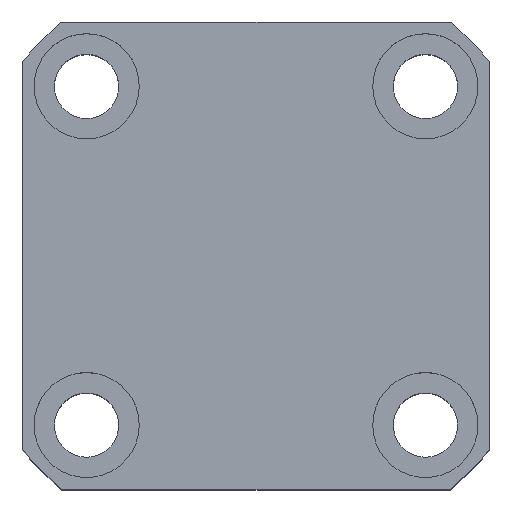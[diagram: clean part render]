
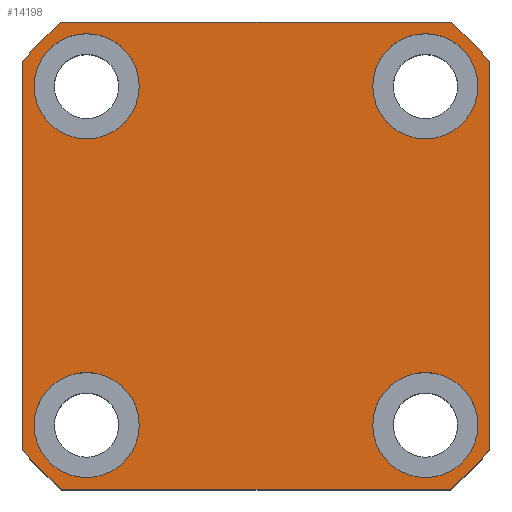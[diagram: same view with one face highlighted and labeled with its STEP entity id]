
A CAD part, top view. The second image highlights one B-rep face of the part: STEP entity #14198.
In plain terms, the highlighted planar face has unit normal (0, 0, 1).
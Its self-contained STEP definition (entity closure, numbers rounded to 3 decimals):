
#157 = AXIS2_PLACEMENT_3D ( 'NONE', #1389, #2524, #9088 ) ;
#282 = DIRECTION ( 'NONE',  ( 0., 0., 1. ) ) ;
#316 = VERTEX_POINT ( 'NONE', #13810 ) ;
#366 = DIRECTION ( 'NONE',  ( 1., 0., 0. ) ) ;
#440 = CARTESIAN_POINT ( 'NONE',  ( 20., 29., 35. ) ) ;
#694 = AXIS2_PLACEMENT_3D ( 'NONE', #8440, #1723, #803 ) ;
#779 = DIRECTION ( 'NONE',  ( 1., 0., 0. ) ) ;
#790 = CARTESIAN_POINT ( 'NONE',  ( 40., 33.226, 35. ) ) ;
#803 = DIRECTION ( 'NONE',  ( 1., 0., 0. ) ) ;
#841 = DIRECTION ( 'NONE',  ( 0., 1., 0. ) ) ;
#942 = DIRECTION ( 'NONE',  ( 0., 0., 1. ) ) ;
#985 = ORIENTED_EDGE ( 'NONE', *, *, #3810, .T. ) ;
#1075 = EDGE_CURVE ( 'NONE', #8283, #10822, #3940, .T. ) ;
#1091 = AXIS2_PLACEMENT_3D ( 'NONE', #5857, #4855, #13367 ) ;
#1109 = VECTOR ( 'NONE', #4229, 1000. ) ;
#1135 = ORIENTED_EDGE ( 'NONE', *, *, #4838, .F. ) ;
#1165 = AXIS2_PLACEMENT_3D ( 'NONE', #9785, #3223, #5527 ) ;
#1331 = AXIS2_PLACEMENT_3D ( 'NONE', #10996, #2228, #5619 ) ;
#1389 = CARTESIAN_POINT ( 'NONE',  ( -29., -29., 35. ) ) ;
#1493 = FACE_OUTER_BOUND ( 'NONE', #8345, .T. ) ;
#1514 = CARTESIAN_POINT ( 'NONE',  ( 29., -29., 35. ) ) ;
#1595 = DIRECTION ( 'NONE',  ( 0., 0., 1. ) ) ;
#1606 = CARTESIAN_POINT ( 'NONE',  ( -40., 33.226, 35. ) ) ;
#1723 = DIRECTION ( 'NONE',  ( 0., 0., 1. ) ) ;
#1883 = DIRECTION ( 'NONE',  ( 0., 0., 1. ) ) ;
#2062 = DIRECTION ( 'NONE',  ( 1., 0., 0. ) ) ;
#2085 = CARTESIAN_POINT ( 'NONE',  ( 38., -29., 35. ) ) ;
#2217 = CARTESIAN_POINT ( 'NONE',  ( -33.226, -40., 35. ) ) ;
#2228 = DIRECTION ( 'NONE',  ( 0., 0., 1. ) ) ;
#2230 = EDGE_CURVE ( 'NONE', #9053, #2246, #2392, .T. ) ;
#2246 = VERTEX_POINT ( 'NONE', #7587 ) ;
#2290 = CARTESIAN_POINT ( 'NONE',  ( -33.226, 40., 35. ) ) ;
#2344 = AXIS2_PLACEMENT_3D ( 'NONE', #9131, #282, #5701 ) ;
#2347 = VERTEX_POINT ( 'NONE', #12227 ) ;
#2378 = VERTEX_POINT ( 'NONE', #6649 ) ;
#2392 = CIRCLE ( 'NONE', #10970, 9. ) ;
#2514 = AXIS2_PLACEMENT_3D ( 'NONE', #1514, #10325, #366 ) ;
#2524 = DIRECTION ( 'NONE',  ( 0., 0., 1. ) ) ;
#2647 = VERTEX_POINT ( 'NONE', #13226 ) ;
#2716 = EDGE_CURVE ( 'NONE', #316, #6928, #8523, .T. ) ;
#2861 = VECTOR ( 'NONE', #3674, 1000. ) ;
#2889 = CARTESIAN_POINT ( 'NONE',  ( -38., 29., 35. ) ) ;
#2894 = CIRCLE ( 'NONE', #1331, 52. ) ;
#2992 = CARTESIAN_POINT ( 'NONE',  ( -33.226, 40., 35. ) ) ;
#3054 = DIRECTION ( 'NONE',  ( 1., 0., 0. ) ) ;
#3092 = EDGE_LOOP ( 'NONE', ( #8698, #6315 ) ) ;
#3155 = CARTESIAN_POINT ( 'NONE',  ( 29., -29., 35. ) ) ;
#3199 = CARTESIAN_POINT ( 'NONE',  ( -20., 29., 35. ) ) ;
#3221 = CARTESIAN_POINT ( 'NONE',  ( -40., 33.226, 35. ) ) ;
#3223 = DIRECTION ( 'NONE',  ( 0., 0., 1. ) ) ;
#3235 = ORIENTED_EDGE ( 'NONE', *, *, #2716, .T. ) ;
#3383 = ORIENTED_EDGE ( 'NONE', *, *, #4322, .F. ) ;
#3447 = AXIS2_PLACEMENT_3D ( 'NONE', #12953, #942, #3054 ) ;
#3560 = CIRCLE ( 'NONE', #1091, 9. ) ;
#3674 = DIRECTION ( 'NONE',  ( 0., -1., 0. ) ) ;
#3720 = DIRECTION ( 'NONE',  ( 1., 0., 0. ) ) ;
#3810 = EDGE_CURVE ( 'NONE', #7876, #8283, #2894, .T. ) ;
#3940 = LINE ( 'NONE', #2290, #8369 ) ;
#3946 = ORIENTED_EDGE ( 'NONE', *, *, #13691, .F. ) ;
#4229 = DIRECTION ( 'NONE',  ( 1., 0., 0. ) ) ;
#4322 = EDGE_CURVE ( 'NONE', #2246, #9053, #12463, .T. ) ;
#4838 = EDGE_CURVE ( 'NONE', #4948, #6662, #12131, .T. ) ;
#4855 = DIRECTION ( 'NONE',  ( 0., 0., 1. ) ) ;
#4948 = VERTEX_POINT ( 'NONE', #2889 ) ;
#4959 = CARTESIAN_POINT ( 'NONE',  ( 40., -33.226, 35. ) ) ;
#4996 = CARTESIAN_POINT ( 'NONE',  ( 33.226, 40., 35. ) ) ;
#5054 = LINE ( 'NONE', #790, #13425 ) ;
#5204 = EDGE_CURVE ( 'NONE', #6662, #4948, #7100, .T. ) ;
#5244 = EDGE_CURVE ( 'NONE', #7686, #316, #6083, .T. ) ;
#5270 = FACE_BOUND ( 'NONE', #9320, .T. ) ;
#5488 = ORIENTED_EDGE ( 'NONE', *, *, #5244, .T. ) ;
#5527 = DIRECTION ( 'NONE',  ( 1., 0., 0. ) ) ;
#5619 = DIRECTION ( 'NONE',  ( 1., 0., 0. ) ) ;
#5701 = DIRECTION ( 'NONE',  ( 1., 0., 0. ) ) ;
#5842 = ORIENTED_EDGE ( 'NONE', *, *, #6030, .T. ) ;
#5857 = CARTESIAN_POINT ( 'NONE',  ( 29., 29., 35. ) ) ;
#5880 = CARTESIAN_POINT ( 'NONE',  ( 0., 0., 35. ) ) ;
#5978 = PLANE ( 'NONE',  #6766 ) ;
#6030 = EDGE_CURVE ( 'NONE', #10822, #6190, #10866, .T. ) ;
#6083 = LINE ( 'NONE', #2217, #1109 ) ;
#6190 = VERTEX_POINT ( 'NONE', #3221 ) ;
#6315 = ORIENTED_EDGE ( 'NONE', *, *, #13076, .F. ) ;
#6498 = CIRCLE ( 'NONE', #157, 9. ) ;
#6640 = FACE_BOUND ( 'NONE', #13708, .T. ) ;
#6649 = CARTESIAN_POINT ( 'NONE',  ( -20., -29., 35. ) ) ;
#6662 = VERTEX_POINT ( 'NONE', #3199 ) ;
#6766 = AXIS2_PLACEMENT_3D ( 'NONE', #5880, #7968, #3720 ) ;
#6928 = VERTEX_POINT ( 'NONE', #4959 ) ;
#7059 = CARTESIAN_POINT ( 'NONE',  ( -29., 29., 35. ) ) ;
#7100 = CIRCLE ( 'NONE', #1165, 9. ) ;
#7490 = EDGE_LOOP ( 'NONE', ( #8862, #1135 ) ) ;
#7503 = VERTEX_POINT ( 'NONE', #440 ) ;
#7534 = ORIENTED_EDGE ( 'NONE', *, *, #2230, .F. ) ;
#7587 = CARTESIAN_POINT ( 'NONE',  ( 20., -29., 35. ) ) ;
#7686 = VERTEX_POINT ( 'NONE', #11266 ) ;
#7814 = FACE_BOUND ( 'NONE', #3092, .T. ) ;
#7876 = VERTEX_POINT ( 'NONE', #10830 ) ;
#7954 = CIRCLE ( 'NONE', #2344, 9. ) ;
#7968 = DIRECTION ( 'NONE',  ( 0., 0., 1. ) ) ;
#7988 = CARTESIAN_POINT ( 'NONE',  ( 0., 0., 35. ) ) ;
#8283 = VERTEX_POINT ( 'NONE', #4996 ) ;
#8345 = EDGE_LOOP ( 'NONE', ( #5842, #11994, #10096, #5488, #3235, #12797, #985, #9197 ) ) ;
#8348 = EDGE_CURVE ( 'NONE', #2347, #7686, #8483, .T. ) ;
#8369 = VECTOR ( 'NONE', #11017, 1000. ) ;
#8440 = CARTESIAN_POINT ( 'NONE',  ( 0., 0., 35. ) ) ;
#8483 = CIRCLE ( 'NONE', #694, 52. ) ;
#8523 = CIRCLE ( 'NONE', #12396, 52. ) ;
#8551 = EDGE_CURVE ( 'NONE', #7503, #11961, #11754, .T. ) ;
#8598 = DIRECTION ( 'NONE',  ( 0., 0., 1. ) ) ;
#8698 = ORIENTED_EDGE ( 'NONE', *, *, #9842, .F. ) ;
#8862 = ORIENTED_EDGE ( 'NONE', *, *, #5204, .F. ) ;
#9053 = VERTEX_POINT ( 'NONE', #2085 ) ;
#9088 = DIRECTION ( 'NONE',  ( 1., 0., 0. ) ) ;
#9131 = CARTESIAN_POINT ( 'NONE',  ( -29., -29., 35. ) ) ;
#9197 = ORIENTED_EDGE ( 'NONE', *, *, #1075, .T. ) ;
#9320 = EDGE_LOOP ( 'NONE', ( #7534, #3383 ) ) ;
#9785 = CARTESIAN_POINT ( 'NONE',  ( -29., 29., 35. ) ) ;
#9842 = EDGE_CURVE ( 'NONE', #2378, #2647, #7954, .T. ) ;
#10096 = ORIENTED_EDGE ( 'NONE', *, *, #8348, .T. ) ;
#10230 = FACE_BOUND ( 'NONE', #7490, .T. ) ;
#10325 = DIRECTION ( 'NONE',  ( 0., 0., 1. ) ) ;
#10739 = CARTESIAN_POINT ( 'NONE',  ( 0., 0., 35. ) ) ;
#10822 = VERTEX_POINT ( 'NONE', #2992 ) ;
#10830 = CARTESIAN_POINT ( 'NONE',  ( 40., 33.226, 35. ) ) ;
#10860 = EDGE_CURVE ( 'NONE', #6928, #7876, #5054, .T. ) ;
#10866 = CIRCLE ( 'NONE', #12240, 52. ) ;
#10970 = AXIS2_PLACEMENT_3D ( 'NONE', #3155, #8598, #2062 ) ;
#10996 = CARTESIAN_POINT ( 'NONE',  ( 0., 0., 35. ) ) ;
#11017 = DIRECTION ( 'NONE',  ( -1., 0., 0. ) ) ;
#11135 = ORIENTED_EDGE ( 'NONE', *, *, #8551, .F. ) ;
#11228 = DIRECTION ( 'NONE',  ( 0., 0., 1. ) ) ;
#11266 = CARTESIAN_POINT ( 'NONE',  ( -33.226, -40., 35. ) ) ;
#11605 = AXIS2_PLACEMENT_3D ( 'NONE', #7059, #1595, #779 ) ;
#11739 = DIRECTION ( 'NONE',  ( 1., 0., 0. ) ) ;
#11754 = CIRCLE ( 'NONE', #3447, 9. ) ;
#11961 = VERTEX_POINT ( 'NONE', #12411 ) ;
#11994 = ORIENTED_EDGE ( 'NONE', *, *, #14099, .T. ) ;
#12131 = CIRCLE ( 'NONE', #11605, 9. ) ;
#12227 = CARTESIAN_POINT ( 'NONE',  ( -40., -33.226, 35. ) ) ;
#12240 = AXIS2_PLACEMENT_3D ( 'NONE', #10739, #1883, #11739 ) ;
#12308 = DIRECTION ( 'NONE',  ( 1., 0., 0. ) ) ;
#12396 = AXIS2_PLACEMENT_3D ( 'NONE', #7988, #11228, #12308 ) ;
#12411 = CARTESIAN_POINT ( 'NONE',  ( 38., 29., 35. ) ) ;
#12463 = CIRCLE ( 'NONE', #2514, 9. ) ;
#12797 = ORIENTED_EDGE ( 'NONE', *, *, #10860, .T. ) ;
#12953 = CARTESIAN_POINT ( 'NONE',  ( 29., 29., 35. ) ) ;
#13076 = EDGE_CURVE ( 'NONE', #2647, #2378, #6498, .T. ) ;
#13226 = CARTESIAN_POINT ( 'NONE',  ( -38., -29., 35. ) ) ;
#13299 = LINE ( 'NONE', #1606, #2861 ) ;
#13367 = DIRECTION ( 'NONE',  ( 1., 0., 0. ) ) ;
#13425 = VECTOR ( 'NONE', #841, 1000. ) ;
#13691 = EDGE_CURVE ( 'NONE', #11961, #7503, #3560, .T. ) ;
#13708 = EDGE_LOOP ( 'NONE', ( #3946, #11135 ) ) ;
#13810 = CARTESIAN_POINT ( 'NONE',  ( 33.226, -40., 35. ) ) ;
#14099 = EDGE_CURVE ( 'NONE', #6190, #2347, #13299, .T. ) ;
#14198 = ADVANCED_FACE ( 'NONE', ( #5270, #7814, #10230, #6640, #1493 ), #5978, .T. ) ;
